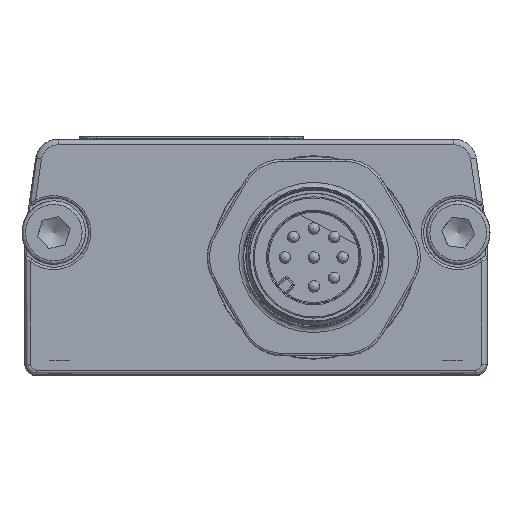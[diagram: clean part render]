
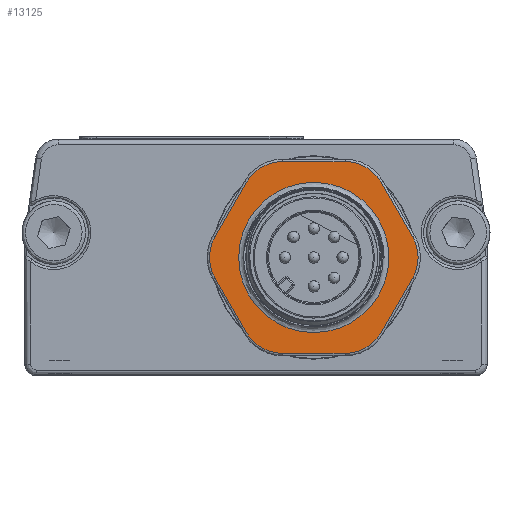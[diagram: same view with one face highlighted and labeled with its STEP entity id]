
A CAD part, front view. The second image highlights one B-rep face of the part: STEP entity #13125.
In plain terms, the highlighted planar face has unit normal (0, -1, 0).
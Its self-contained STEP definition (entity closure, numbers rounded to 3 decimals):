
#159=FACE_BOUND('',#2247,.T.);
#615=CIRCLE('',#14120,3.6);
#616=CIRCLE('',#14121,3.6);
#617=CIRCLE('',#14122,3.6);
#618=CIRCLE('',#14123,3.6);
#619=CIRCLE('',#14124,3.6);
#620=CIRCLE('',#14125,3.6);
#621=CIRCLE('',#14126,6.5);
#622=CIRCLE('',#14127,6.5);
#1088=PLANE('',#14119);
#1531=FACE_OUTER_BOUND('',#2246,.T.);
#2246=EDGE_LOOP('',(#9837,#9838,#9839,#9840,#9841,#9842,#9843,#9844,#9845,
#9846,#9847,#9848));
#2247=EDGE_LOOP('',(#9849,#9850));
#3435=LINE('',#21571,#4460);
#3436=LINE('',#21575,#4461);
#3437=LINE('',#21579,#4462);
#3438=LINE('',#21583,#4463);
#3439=LINE('',#21587,#4464);
#3440=LINE('',#21590,#4465);
#4460=VECTOR('',#16437,10.);
#4461=VECTOR('',#16440,10.);
#4462=VECTOR('',#16443,10.);
#4463=VECTOR('',#16446,10.);
#4464=VECTOR('',#16449,10.);
#4465=VECTOR('',#16452,10.);
#5586=VERTEX_POINT('',#21567);
#5587=VERTEX_POINT('',#21568);
#5588=VERTEX_POINT('',#21570);
#5589=VERTEX_POINT('',#21572);
#5590=VERTEX_POINT('',#21574);
#5591=VERTEX_POINT('',#21576);
#5592=VERTEX_POINT('',#21578);
#5593=VERTEX_POINT('',#21580);
#5594=VERTEX_POINT('',#21582);
#5595=VERTEX_POINT('',#21584);
#5596=VERTEX_POINT('',#21586);
#5597=VERTEX_POINT('',#21588);
#5598=VERTEX_POINT('',#21591);
#5599=VERTEX_POINT('',#21592);
#7122=EDGE_CURVE('',#5586,#5587,#615,.T.);
#7123=EDGE_CURVE('',#5588,#5586,#3435,.T.);
#7124=EDGE_CURVE('',#5589,#5588,#616,.T.);
#7125=EDGE_CURVE('',#5590,#5589,#3436,.T.);
#7126=EDGE_CURVE('',#5591,#5590,#617,.T.);
#7127=EDGE_CURVE('',#5592,#5591,#3437,.T.);
#7128=EDGE_CURVE('',#5593,#5592,#618,.T.);
#7129=EDGE_CURVE('',#5594,#5593,#3438,.T.);
#7130=EDGE_CURVE('',#5595,#5594,#619,.T.);
#7131=EDGE_CURVE('',#5596,#5595,#3439,.T.);
#7132=EDGE_CURVE('',#5597,#5596,#620,.T.);
#7133=EDGE_CURVE('',#5587,#5597,#3440,.T.);
#7134=EDGE_CURVE('',#5598,#5599,#621,.T.);
#7135=EDGE_CURVE('',#5599,#5598,#622,.T.);
#9837=ORIENTED_EDGE('',*,*,#7122,.F.);
#9838=ORIENTED_EDGE('',*,*,#7123,.F.);
#9839=ORIENTED_EDGE('',*,*,#7124,.F.);
#9840=ORIENTED_EDGE('',*,*,#7125,.F.);
#9841=ORIENTED_EDGE('',*,*,#7126,.F.);
#9842=ORIENTED_EDGE('',*,*,#7127,.F.);
#9843=ORIENTED_EDGE('',*,*,#7128,.F.);
#9844=ORIENTED_EDGE('',*,*,#7129,.F.);
#9845=ORIENTED_EDGE('',*,*,#7130,.F.);
#9846=ORIENTED_EDGE('',*,*,#7131,.F.);
#9847=ORIENTED_EDGE('',*,*,#7132,.F.);
#9848=ORIENTED_EDGE('',*,*,#7133,.F.);
#9849=ORIENTED_EDGE('',*,*,#7134,.F.);
#9850=ORIENTED_EDGE('',*,*,#7135,.F.);
#13125=ADVANCED_FACE('',(#1531,#159),#1088,.T.);
#14119=AXIS2_PLACEMENT_3D('',#21566,#16433,#16434);
#14120=AXIS2_PLACEMENT_3D('',#21569,#16435,#16436);
#14121=AXIS2_PLACEMENT_3D('',#21573,#16438,#16439);
#14122=AXIS2_PLACEMENT_3D('',#21577,#16441,#16442);
#14123=AXIS2_PLACEMENT_3D('',#21581,#16444,#16445);
#14124=AXIS2_PLACEMENT_3D('',#21585,#16447,#16448);
#14125=AXIS2_PLACEMENT_3D('',#21589,#16450,#16451);
#14126=AXIS2_PLACEMENT_3D('',#21593,#16453,#16454);
#14127=AXIS2_PLACEMENT_3D('',#21594,#16455,#16456);
#16433=DIRECTION('center_axis',(0.,-1.,0.));
#16434=DIRECTION('ref_axis',(-1.,0.,0.));
#16435=DIRECTION('center_axis',(0.,1.,0.));
#16436=DIRECTION('ref_axis',(-0.5,0.,-0.866));
#16437=DIRECTION('',(-1.,0.,0.));
#16438=DIRECTION('center_axis',(0.,1.,0.));
#16439=DIRECTION('ref_axis',(0.5,0.,-0.866));
#16440=DIRECTION('',(-0.5,0.,-0.866));
#16441=DIRECTION('center_axis',(0.,1.,0.));
#16442=DIRECTION('ref_axis',(1.,0.,0.));
#16443=DIRECTION('',(0.5,0.,-0.866));
#16444=DIRECTION('center_axis',(0.,1.,0.));
#16445=DIRECTION('ref_axis',(0.5,0.,0.866));
#16446=DIRECTION('',(1.,0.,0.));
#16447=DIRECTION('center_axis',(0.,1.,0.));
#16448=DIRECTION('ref_axis',(-0.5,0.,0.866));
#16449=DIRECTION('',(0.5,0.,0.866));
#16450=DIRECTION('center_axis',(0.,1.,0.));
#16451=DIRECTION('ref_axis',(-1.,0.,0.));
#16452=DIRECTION('',(-0.5,0.,0.866));
#16453=DIRECTION('center_axis',(0.,-1.,0.));
#16454=DIRECTION('ref_axis',(0.,0.,
1.));
#16455=DIRECTION('center_axis',(0.,-1.,0.));
#16456=DIRECTION('ref_axis',(0.,0.,
1.));
#21566=CARTESIAN_POINT('Origin',(9.486,-12.9,-8.973));
#21567=CARTESIAN_POINT('',(6.773,-12.9,-17.273));
#21568=CARTESIAN_POINT('',(3.655,-12.9,-15.473));
#21569=CARTESIAN_POINT('Origin',(6.773,-12.9,-13.673));
#21570=CARTESIAN_POINT('',(12.2,-12.9,-17.273));
#21571=CARTESIAN_POINT('',(7.032,-12.9,-17.273));
#21572=CARTESIAN_POINT('',(15.317,-12.9,-15.473));
#21573=CARTESIAN_POINT('Origin',(12.2,-12.9,-13.673));
#21574=CARTESIAN_POINT('',(18.031,-12.9,-10.773));
#21575=CARTESIAN_POINT('',(15.447,-12.9,-15.248));
#21576=CARTESIAN_POINT('',(18.031,-12.9,-7.173));
#21577=CARTESIAN_POINT('Origin',(14.913,-12.9,-8.973));
#21578=CARTESIAN_POINT('',(15.317,-12.9,-2.473));
#21579=CARTESIAN_POINT('',(17.901,-12.9,-6.948));
#21580=CARTESIAN_POINT('',(12.2,-12.9,-0.673));
#21581=CARTESIAN_POINT('Origin',(12.2,-12.9,-4.273));
#21582=CARTESIAN_POINT('',(6.773,-12.9,-0.673));
#21583=CARTESIAN_POINT('',(11.94,-12.9,-0.673));
#21584=CARTESIAN_POINT('',(3.655,-12.9,-2.473));
#21585=CARTESIAN_POINT('Origin',(6.773,-12.9,-4.273));
#21586=CARTESIAN_POINT('',(0.941,-12.9,-7.173));
#21587=CARTESIAN_POINT('',(3.525,-12.9,-2.698));
#21588=CARTESIAN_POINT('',(0.941,-12.9,-10.773));
#21589=CARTESIAN_POINT('Origin',(4.059,-12.9,-8.973));
#21590=CARTESIAN_POINT('',(1.071,-12.9,-10.998));
#21591=CARTESIAN_POINT('',(9.486,-12.9,-15.473));
#21592=CARTESIAN_POINT('',(2.986,-12.9,-8.973));
#21593=CARTESIAN_POINT('Origin',(9.486,-12.9,-8.973));
#21594=CARTESIAN_POINT('Origin',(9.486,-12.9,-8.973));
